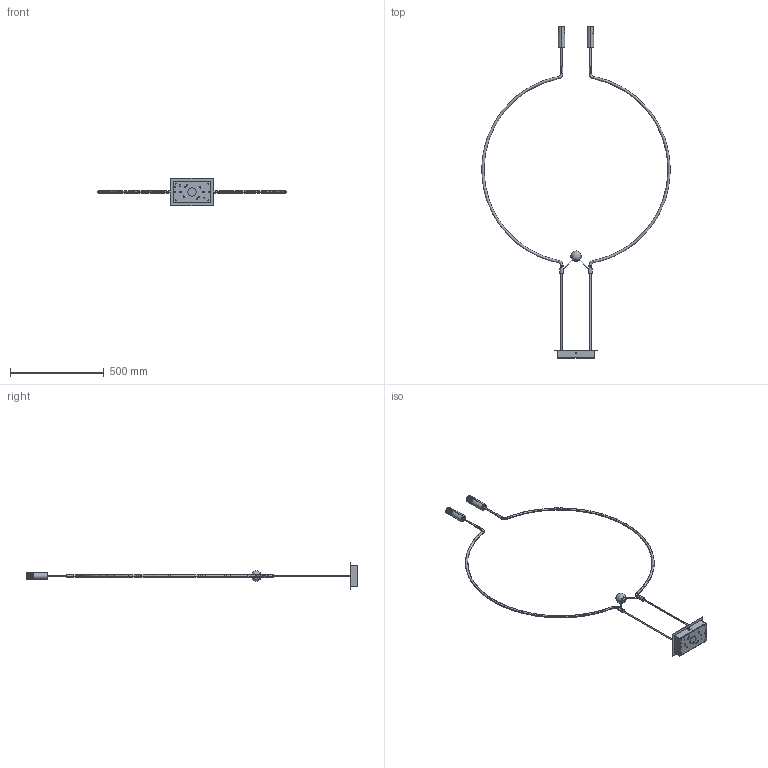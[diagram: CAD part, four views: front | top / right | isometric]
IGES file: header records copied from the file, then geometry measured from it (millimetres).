
Start section: SolidWorks IGES file using analytic representation for surfaces
Global section: file name: \\STORAGE\Tecnico Condiviso\10 NUOVI PROGETTI IN SVILUPPO\NUOVI PROGETTI AXO\AXO058 LIAISON\DRAW\3D\20180830-LIAISON SP2 ROSONE\wetransfer-7ac72d\Pack and Go 1.0A.AXO01.LS09.A1\SPLIAIG2XXXXLED-PER 3D.IGS; native system: SolidWorks 2019; preprocessor: SolidWorks 2019; author: tecnico3; date: 191123.121935; units: millimetre
Bounding box: 1005 x 1770.12 x 145 mm (x, y, z)
Volume: 561982.6 mm3; surface area: 547208.6 mm2
Topology: 39 solids, 39 shells, 720 faces, 1684 edges, 1053 vertices
Faces by surface type: revolution 466, plane 234, bspline 20
